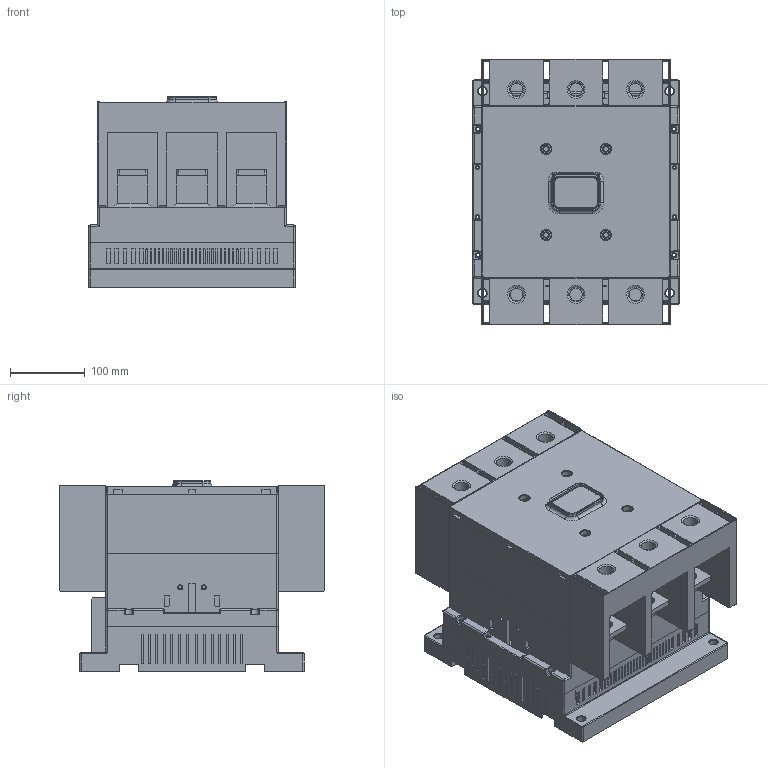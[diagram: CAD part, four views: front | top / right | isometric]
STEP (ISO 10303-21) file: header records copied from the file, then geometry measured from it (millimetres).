
FILE_DESCRIPTION(/* description */ (''),/* implementation_level */ '2;1');
FILE_NAME(/* name */ 'HGC800AF_.stp',/* time_stamp */ '2017-09-21T13:43:49+09:00',/* author */ (''),/* organization */ (''),/* preprocessor_version */ 'ST-DEVELOPER v15',/* originating_system */ 'SIEMENS PLM Software NX 9.0',/* authorisation */ '');
FILE_SCHEMA (('CONFIG_CONTROL_DESIGN'));
Products named in the file (1): HGC800AF_
Bounding box: 276 x 355.2 x 255.4 mm (x, y, z)
Volume: 12691647.1 mm3; surface area: 2242490 mm2
Topology: 17 solids, 17 shells, 6356 faces, 17051 edges, 10768 vertices
Faces by surface type: plane 3818, cylinder 1965, bspline 280, sphere 168, torus 77, cone 48
Full cylindrical faces by diameter (mm): 3.5 x4, 3.7 x4, 5 x12, 6.5 x12, 7 x12, 10 x6, 10.6 x4, 10.8 x4, 11 x4, 13 x16, 17 x6, 20 x18
Entity records: 202305 total; most frequent: CARTESIAN_POINT 47368, ORIENTED_EDGE 33736, DIRECTION 30298, EDGE_CURVE 16868, LINE 10778, VECTOR 10778, VERTEX_POINT 10768, AXIS2_PLACEMENT_3D 9760
